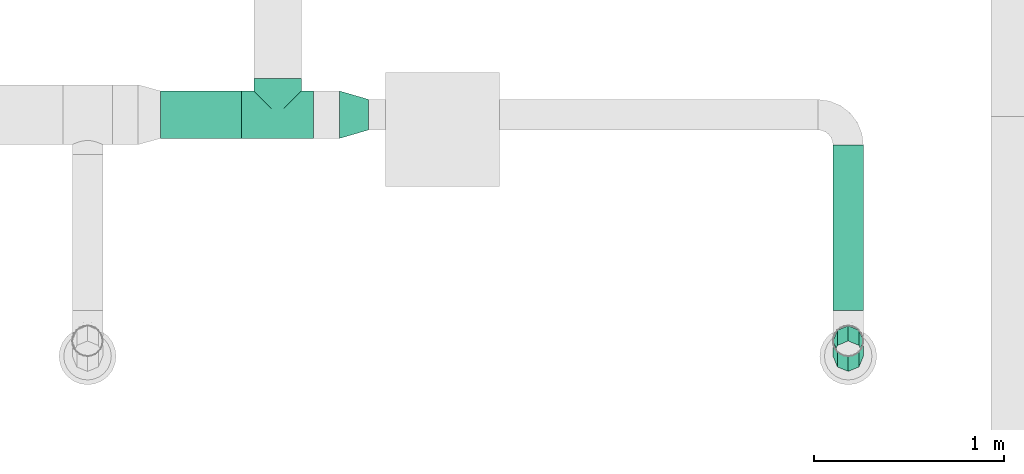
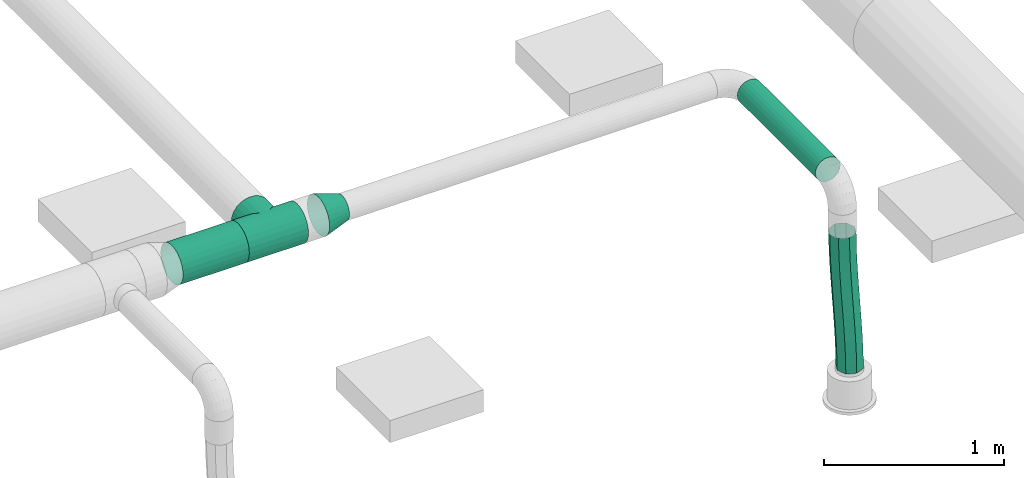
# One storey, part 324 of 374: 3 flow segments, 2 flow fittings.
"""IFC2X3 building model written with IfcOpenShell, lengths in metres."""

from ifc_helpers import new_model, si_unit, direction, origin, place, context, subcontext, project, spatial, open_shell, surface_model, source, transform, mapped, element, save


model = new_model("IFC2X3")

# Units and contexts
model_context = context("Model", 3, precision=1e-05, world=origin(), true_north=direction((-0.4480736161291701, 0.8939966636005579)))
body_context = subcontext(model_context, "Body", "Model", "MODEL_VIEW")
ifc_project = project(units=[si_unit("LENGTHUNIT", "METRE"), si_unit("AREAUNIT", "SQUARE_METRE"), si_unit("VOLUMEUNIT", "CUBIC_METRE"), si_unit("PLANEANGLEUNIT", "RADIAN"), si_unit("THERMODYNAMICTEMPERATUREUNIT", "KELVIN"), si_unit("MASSUNIT", "GRAM", prefix="KILO"), si_unit("TIMEUNIT", "SECOND")], contexts=[model_context])

# Site, building, storey
site_placement = place(None, origin())
site = spatial("IfcSite", under=ifc_project, at=site_placement, Name="Site 1", CompositionType="ELEMENT")
building_placement = place(site_placement, origin())
building = spatial("IfcBuilding", under=site, at=building_placement, Name="Undefined", CompositionType="ELEMENT")
storey_placement = place(building_placement, origin())
storey = spatial("IfcBuildingStorey", under=building, at=storey_placement, Name="Rez de chauss\x8ee", CompositionType="ELEMENT", Elevation=0.0)

# Flow segment
shared_shape_1 = source(origin(), body_context, "Body", "SurfaceModel", [
    surface_model("IfcFaceBasedSurfaceModel", [(0.0, 0.03263154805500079, 0.0), (0.0, 0.0, 0.0), (0.425483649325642, -1.776356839e-15, -4.4408921e-16), (0.425483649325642, 0.03263154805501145, -4.4408921e-16), (0.0, -0.031519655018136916, -0.008445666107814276), (0.425483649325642, -0.03151965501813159, -0.008445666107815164), (0.0, -0.05977940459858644, -0.024761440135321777), (0.425483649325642, -0.05977940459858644, -0.024761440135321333), (0.0, -0.08285339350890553, -0.047835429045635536), (0.425483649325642, -0.0828533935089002, -0.04783542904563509), (0.0, -0.09916916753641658, -0.07609517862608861), (0.425483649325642, -0.09916916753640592, -0.07609517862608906), (0.0, -0.1076148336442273, -0.10761483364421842), (0.425483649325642, -0.10761483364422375, -0.10761483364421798), (0.0, -0.1076148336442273, -0.14024638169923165), (0.425483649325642, -0.10761483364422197, -0.1402463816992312), (0.0, -0.09916916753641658, -0.17176603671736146), (0.425483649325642, -0.0991691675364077, -0.17176603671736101), (0.0, -0.08285339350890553, -0.2000257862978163), (0.425483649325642, -0.08285339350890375, -0.20002578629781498), (0.0, -0.059779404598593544, -0.22309977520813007), (0.425483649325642, -0.059779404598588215, -0.22309977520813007), (0.0, -0.03151965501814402, -0.23941554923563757), (0.425483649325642, -0.03151965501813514, -0.23941554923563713), (0.0, -1.4210854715e-14, -0.24786121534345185), (0.425483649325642, -5.329070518e-15, -0.24786121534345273), (0.0, 0.03263154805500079, -0.24786121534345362), (0.425483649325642, 0.03263154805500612, -0.24786121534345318), (0.0, 0.0641512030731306, -0.23941554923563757), (0.425483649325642, 0.06415120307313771, -0.23941554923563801), (0.0, 0.09241095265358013, -0.22309977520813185), (0.425483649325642, 0.09241095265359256, -0.22309977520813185), (0.0, 0.11548494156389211, -0.2000257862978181), (0.425483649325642, 0.11548494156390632, -0.20002578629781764), (0.0, 0.13180071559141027, -0.171766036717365), (0.425483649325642, 0.13180071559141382, -0.17176603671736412), (0.0, 0.140246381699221, -0.1402463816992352), (0.425483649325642, 0.1402463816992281, -0.1402463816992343), (0.0, 0.140246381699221, -0.10761483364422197), (0.425483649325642, 0.14024638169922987, -0.10761483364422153), (0.0, 0.13180071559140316, -0.07609517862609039), (0.425483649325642, 0.13180071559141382, -0.07609517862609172), (0.0, 0.11548494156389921, -0.04783542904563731), (0.425483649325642, 0.11548494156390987, -0.047835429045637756), (0.0, 0.09241095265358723, -0.024761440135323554), (0.425483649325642, 0.09241095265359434, -0.02476144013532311), (0.0, 0.06415120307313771, -0.008445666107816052), (0.425483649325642, 0.06415120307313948, -0.008445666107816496)], [open_shell([[[0, 1, 2, 3]], [[1, 4, 5, 2]], [[4, 6, 7, 5]], [[6, 8, 9, 7]], [[8, 10, 11, 9]], [[10, 12, 13, 11]], [[12, 14, 15, 13]], [[14, 16, 17, 15]], [[16, 18, 19, 17]], [[18, 20, 21, 19]], [[20, 22, 23, 21]], [[22, 24, 25, 23]], [[24, 26, 27, 25]], [[26, 28, 29, 27]], [[28, 30, 31, 29]], [[30, 32, 33, 31]], [[32, 34, 35, 33]], [[34, 36, 37, 35]], [[36, 38, 39, 37]], [[38, 40, 41, 39]], [[40, 42, 43, 41]], [[42, 44, 45, 43]], [[44, 46, 47, 45]], [[46, 0, 3, 47]]])]),
])
flow_segment_1_placement = place(storey_placement, origin())
element("IfcFlowSegment", 1, at=flow_segment_1_placement, inside=storey, Name="Tube", ObjectType="Tube", context=body_context, shape_type="MappedRepresentation", body=[
    mapped(shared_shape_1, transform((60.6740038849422, 8.192647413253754, 3.920740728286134), x_axis=(1.0, 0.0, 0.0), y_axis=(0.0, 0.9914448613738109, 0.1305261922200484), z_axis=(0.0, -0.1305261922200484, 0.9914448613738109))),
])

# Flow fittings
shared_shape_2 = source(origin(), body_context, "Body", "SurfaceModel", [
    surface_model("IfcFaceBasedSurfaceModel", [(0.0, 0.03263154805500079, 0.0), (0.0, 0.0, 0.0), (0.38000000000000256, 8.8817842e-16, 0.0), (0.38000000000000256, 0.03263154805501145, 0.0), (0.0, -0.031519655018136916, -0.008445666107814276), (0.38000000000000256, -0.03151965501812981, -0.008445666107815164), (0.0, -0.05977940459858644, -0.024761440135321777), (0.38000000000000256, -0.059779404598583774, -0.024761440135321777), (0.0, -0.08285339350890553, -0.047835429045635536), (0.38000000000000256, -0.08285339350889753, -0.047835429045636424), (0.0, -0.09916916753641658, -0.07609517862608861), (0.38000000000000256, -0.09916916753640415, -0.07609517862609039), (0.0, -0.1076148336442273, -0.10761483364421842), (0.38000000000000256, -0.1076148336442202, -0.1076148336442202), (0.0, -0.1076148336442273, -0.14024638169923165), (0.38000000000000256, -0.10761483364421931, -0.14024638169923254), (0.0, -0.09916916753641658, -0.17176603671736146), (0.38000000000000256, -0.09916916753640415, -0.17176603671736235), (0.0, -0.08285339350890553, -0.2000257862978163), (0.38000000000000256, -0.08285339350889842, -0.2000257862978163), (0.0, -0.059779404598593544, -0.22309977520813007), (0.38000000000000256, -0.059779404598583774, -0.22309977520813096), (0.0, -0.03151965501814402, -0.23941554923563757), (0.38000000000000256, -0.031519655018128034, -0.23941554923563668), (0.0, -1.4210854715e-14, -0.24786121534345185), (0.38000000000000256, -8.8817842e-16, -0.24786121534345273), (0.0, 0.03263154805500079, -0.24786121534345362), (0.38000000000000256, 0.03263154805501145, -0.24786121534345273), (0.0, 0.0641512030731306, -0.23941554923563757), (0.38000000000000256, 0.06415120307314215, -0.23941554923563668), (0.0, 0.09241095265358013, -0.22309977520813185), (0.38000000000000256, 0.09241095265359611, -0.22309977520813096), (0.0, 0.11548494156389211, -0.2000257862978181), (0.38000000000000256, 0.11548494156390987, -0.2000257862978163), (0.0, 0.13180071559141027, -0.171766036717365), (0.38000000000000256, 0.13180071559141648, -0.17176603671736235), (0.0, 0.140246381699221, -0.1402463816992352), (0.38000000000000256, 0.14024638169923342, -0.14024638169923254), (0.0, 0.140246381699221, -0.10761483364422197), (0.38000000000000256, 0.14024638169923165, -0.10761483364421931), (0.0, 0.13180071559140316, -0.07609517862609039), (0.38000000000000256, 0.13180071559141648, -0.07609517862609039), (0.0, 0.11548494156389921, -0.04783542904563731), (0.38000000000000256, 0.11548494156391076, -0.047835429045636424), (0.0, 0.09241095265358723, -0.024761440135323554), (0.38000000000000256, 0.09241095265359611, -0.024761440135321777), (0.0, 0.06415120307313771, -0.008445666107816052), (0.38000000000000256, 0.06415120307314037, -0.008445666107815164), (0.31500000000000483, 0.14024638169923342, -0.14024638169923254), (0.3107407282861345, 0.13180071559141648, -0.17176603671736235), (0.3107407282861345, 0.20046746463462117, -0.18080618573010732), (0.31500000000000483, 0.2046902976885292, -0.1487305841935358), (0.2982531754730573, 0.11548494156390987, -0.2000257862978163), (0.2982531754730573, 0.19653241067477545, -0.21069588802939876), (0.2783883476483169, 0.09241095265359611, -0.22309977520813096), (0.2783883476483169, 0.19315330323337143, -0.23636275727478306), (0.25250000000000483, 0.06415120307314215, -0.23941554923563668), (0.25250000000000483, 0.19056042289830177, -0.2560576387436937), (0.22235238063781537, 0.03263154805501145, -0.24786121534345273), (0.22235238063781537, 0.1889304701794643, -0.2684383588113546), (0.19000000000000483, -8.8817842e-16, -0.24786121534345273), (0.19000000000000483, 0.18837452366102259, -0.2726611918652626), (0.15764761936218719, 0.03263154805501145, -0.24786121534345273), (0.15764761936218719, 0.1889304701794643, -0.2684383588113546), (0.12750000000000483, 0.06415120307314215, -0.23941554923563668), (0.12750000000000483, 0.19056042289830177, -0.2560576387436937), (0.10161165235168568, 0.09241095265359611, -0.22309977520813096), (0.10161165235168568, 0.19315330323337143, -0.23636275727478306), (0.08174682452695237, 0.11548494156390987, -0.2000257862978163), (0.08174682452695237, 0.19653241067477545, -0.21069588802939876), (0.06925927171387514, 0.13180071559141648, -0.17176603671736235), (0.06925927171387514, 0.20046746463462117, -0.18080618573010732), (0.06499999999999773, 0.14024638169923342, -0.14024638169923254), (0.06499999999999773, 0.2046902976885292, -0.1487305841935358), (0.06925927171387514, 0.14024638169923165, -0.10761483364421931), (0.06925927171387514, 0.20891313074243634, -0.11665498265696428), (0.08174682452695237, 0.13180071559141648, -0.07609517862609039), (0.08174682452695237, 0.21284818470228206, -0.08676528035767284), (0.10161165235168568, 0.11548494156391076, -0.047835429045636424), (0.10161165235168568, 0.21622729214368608, -0.06109841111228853), (0.12750000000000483, 0.09241095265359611, -0.024761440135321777), (0.12750000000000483, 0.21882017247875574, -0.0414035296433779), (0.15764761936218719, 0.06415120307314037, -0.008445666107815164), (0.15764761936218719, 0.22045012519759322, -0.029022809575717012), (0.19000000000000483, 0.03263154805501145, 0.0), (0.19000000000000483, 0.22100607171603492, -0.024799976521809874), (0.22235238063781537, 0.06415120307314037, -0.008445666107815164), (0.22235238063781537, 0.22045012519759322, -0.029022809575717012), (0.25250000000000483, 0.09241095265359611, -0.024761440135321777), (0.25250000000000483, 0.21882017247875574, -0.0414035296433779), (0.2783883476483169, 0.11548494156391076, -0.047835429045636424), (0.2783883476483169, 0.21622729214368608, -0.06109841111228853), (0.2982531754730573, 0.13180071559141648, -0.07609517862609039), (0.2982531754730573, 0.21284818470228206, -0.08676528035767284), (0.3107407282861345, 0.14024638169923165, -0.10761483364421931), (0.3107407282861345, 0.20891313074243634, -0.11665498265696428)], [open_shell([[[0, 1, 2, 3]], [[1, 4, 5, 2]], [[4, 6, 7, 5]], [[6, 8, 9, 7]], [[8, 10, 11, 9]], [[10, 12, 13, 11]], [[12, 14, 15, 13]], [[14, 16, 17, 15]], [[16, 18, 19, 17]], [[18, 20, 21, 19]], [[20, 22, 23, 21]], [[22, 24, 25, 23]], [[24, 26, 27, 25]], [[26, 28, 29, 27]], [[28, 30, 31, 29]], [[30, 32, 33, 31]], [[32, 34, 35, 33]], [[34, 36, 37, 35]], [[36, 38, 39, 37]], [[38, 40, 41, 39]], [[40, 42, 43, 41]], [[42, 44, 45, 43]], [[44, 46, 47, 45]], [[46, 0, 3, 47]], [[48, 49, 50, 51]], [[49, 52, 53, 50]], [[52, 54, 55, 53]], [[54, 56, 57, 55]], [[56, 58, 59, 57]], [[58, 60, 61, 59]], [[60, 62, 63, 61]], [[62, 64, 65, 63]], [[64, 66, 67, 65]], [[66, 68, 69, 67]], [[68, 70, 71, 69]], [[70, 72, 73, 71]], [[72, 74, 75, 73]], [[74, 76, 77, 75]], [[76, 78, 79, 77]], [[78, 80, 81, 79]], [[80, 82, 83, 81]], [[82, 84, 85, 83]], [[84, 86, 87, 85]], [[86, 88, 89, 87]], [[88, 90, 91, 89]], [[90, 92, 93, 91]], [[92, 94, 95, 93]], [[94, 48, 51, 95]]])]),
])
flow_fitting_1_placement = place(storey_placement, origin())
element("IfcFlowFitting", 2, at=flow_fitting_1_placement, inside=storey, Name="Pièce en té 90°", ObjectType="Pièce en té 90°", context=body_context, shape_type="MappedRepresentation", body=[
    mapped(shared_shape_2, transform((61.47948753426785, 8.192647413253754, 3.679259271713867), x_axis=(-1.0, 0.0, 0.0), y_axis=(0.0, 0.9914448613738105, -0.13052619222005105), z_axis=(9.56658874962e-13, -0.13052619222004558, -0.9914448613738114))),
])
shared_shape_3 = source(origin(), body_context, "Body", "SurfaceModel", [
    surface_model("IfcFaceBasedSurfaceModel", [(0.1604400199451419, 2.22044605e-16, 1.776356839e-15), (0.1592453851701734, 0.032609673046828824, -1.776356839e-15), (-0.0007645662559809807, 0.020870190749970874, 1.776356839e-15), (0.0, 0.0, 0.0), (0.15574289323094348, 0.06402216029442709, -0.008112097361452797), (-0.003006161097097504, 0.04097418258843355, -0.005191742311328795), (0.1501712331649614, 0.0920967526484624, -0.023783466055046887), (-0.006572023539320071, 0.05894192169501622, -0.01522141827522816), (0.14291010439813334, 0.11492021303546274, -0.0459461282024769), (-0.011219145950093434, 0.07354893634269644, -0.0294055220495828), (0.13445434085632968, 0.1309371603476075, -0.07308973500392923), (-0.01663083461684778, 0.08379978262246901, -0.046777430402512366), (0.12538018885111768, 0.13905606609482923, -0.10336449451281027), (-0.022438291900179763, 0.08899588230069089, -0.06615327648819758), (0.11630603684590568, 0.13872364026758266, -0.13470723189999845), (-0.028245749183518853, 0.08878312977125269, -0.0862126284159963), (0.10785027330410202, 0.12996253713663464, -0.16498199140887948), (-0.0336574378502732, 0.0831760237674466, -0.10558847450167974), (0.10058914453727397, 0.11336981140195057, -0.19212559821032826), (-0.038304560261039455, 0.0725566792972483, -0.12296038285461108), (0.09501748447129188, 0.09007622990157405, -0.21428826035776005), (-0.04187042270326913, 0.057648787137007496, -0.13714448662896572), (0.09151499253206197, 0.06166921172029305, -0.22995962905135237), (-0.044112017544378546, 0.039468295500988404, -0.14717416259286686), (0.09032035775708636, 0.030084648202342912, -0.23807172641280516), (-0.044876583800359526, 0.019254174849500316, -0.15236590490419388), (0.09151499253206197, -0.0025250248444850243, -0.23807172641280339), (-0.044112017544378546, -0.0016160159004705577, -0.15236590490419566), (0.09501748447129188, -0.03393751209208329, -0.22995962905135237), (-0.04187042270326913, -0.021720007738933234, -0.1471741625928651), (0.10058914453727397, -0.0620121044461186, -0.21428826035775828), (-0.038304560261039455, -0.0396877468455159, -0.13714448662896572), (0.10785027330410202, -0.08483556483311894, -0.19212559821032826), (-0.0336574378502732, -0.05429476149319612, -0.12296038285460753), (0.11630603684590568, -0.10085251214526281, -0.16498199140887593), (-0.028245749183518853, -0.0645456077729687, -0.10558847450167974), (0.12538018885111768, -0.10897141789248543, -0.1347072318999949), (-0.022438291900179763, -0.06974170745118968, -0.0862126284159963), (0.13445434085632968, -0.10863899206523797, -0.10336449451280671), (-0.01663083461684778, -0.06952895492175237, -0.0661532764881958), (0.14291010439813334, -0.09987788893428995, -0.07308973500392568), (-0.011219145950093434, -0.06392184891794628, -0.04677743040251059), (0.1501712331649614, -0.08328516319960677, -0.0459461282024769), (-0.006572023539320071, -0.05330250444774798, -0.0294055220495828), (0.15574289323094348, -0.059991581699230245, -0.02378346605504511), (-0.003006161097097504, -0.03839461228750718, -0.01522141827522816), (0.1592453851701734, -0.03158456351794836, -0.008112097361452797), (-0.0007645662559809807, -0.0202141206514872, -0.005191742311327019)], [open_shell([[[0, 1, 2, 3]], [[1, 4, 5, 2]], [[4, 6, 7, 5]], [[6, 8, 9, 7]], [[8, 10, 11, 9]], [[10, 12, 13, 11]], [[12, 14, 15, 13]], [[14, 16, 17, 15]], [[16, 18, 19, 17]], [[18, 20, 21, 19]], [[20, 22, 23, 21]], [[22, 24, 25, 23]], [[24, 26, 27, 25]], [[26, 28, 29, 27]], [[28, 30, 31, 29]], [[30, 32, 33, 31]], [[32, 34, 35, 33]], [[34, 36, 37, 35]], [[36, 38, 39, 37]], [[38, 40, 41, 39]], [[40, 42, 43, 41]], [[42, 44, 45, 43]], [[44, 46, 47, 45]], [[46, 0, 3, 47]]])]),
])
flow_fitting_2_placement = place(storey_placement, origin())
element("IfcFlowFitting", 3, at=flow_fitting_2_placement, inside=storey, Name="Réduction conique", ObjectType="Réduction conique", context=body_context, shape_type="MappedRepresentation", body=[
    mapped(shared_shape_3, transform((61.76848753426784, 8.144999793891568, 3.8000000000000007), x_axis=(-0.9598602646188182, -0.28047864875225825, 0.0), y_axis=(-0.03516387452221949, 0.1203385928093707, -0.9921099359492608), z_axis=(0.2782656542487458, -0.9522869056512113, -0.12537094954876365))),
])

# Flow segments
shared_shape_4 = source(origin(), body_context, "Body", "SurfaceModel", [
    surface_model("IfcFaceBasedSurfaceModel", [(0.0, 0.020884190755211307, 0.0), (0.0, 0.0, 0.0), (0.870001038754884, 0.0, -8.8817842e-16), (0.870001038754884, 0.020884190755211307, -8.8817842e-16), (0.0, -0.020172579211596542, -0.005405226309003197), (0.870001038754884, -0.020172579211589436, -0.005405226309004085), (0.0, -0.03825881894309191, -0.015847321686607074), (0.870001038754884, -0.03825881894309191, -0.015847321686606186), (0.0, -0.05302617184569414, -0.0306146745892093), (0.870001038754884, -0.05302617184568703, -0.030614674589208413), (0.0, -0.06346826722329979, -0.04870091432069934), (0.870001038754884, -0.06346826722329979, -0.04870091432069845), (0.0, -0.06887349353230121, -0.06887349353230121), (0.870001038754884, -0.0688734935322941, -0.0688734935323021), (0.0, -0.06887349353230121, -0.08975768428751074), (0.870001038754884, -0.0688734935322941, -0.08975768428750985), (0.0, -0.06346826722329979, -0.10993026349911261), (0.870001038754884, -0.06346826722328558, -0.1099302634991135), (0.0, -0.05302617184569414, -0.12801650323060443), (0.870001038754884, -0.05302617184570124, -0.12801650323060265), (0.0, -0.038258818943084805, -0.14278385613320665), (0.870001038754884, -0.0382588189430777, -0.14278385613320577), (0.0, -0.020172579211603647, -0.15322595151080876), (0.870001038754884, -0.020172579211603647, -0.15322595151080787), (0.0, 7.105427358e-15, -0.15863117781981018), (0.870001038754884, 1.4210854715e-14, -0.15863117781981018), (0.0, 0.020884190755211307, -0.15863117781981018), (0.870001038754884, 0.020884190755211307, -0.1586311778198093), (0.0, 0.04105676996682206, -0.15322595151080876), (0.870001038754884, 0.041056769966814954, -0.15322595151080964), (0.0, 0.05914300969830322, -0.1427838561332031), (0.870001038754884, 0.05914300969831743, -0.14278385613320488), (0.0, 0.07391036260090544, -0.12801650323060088), (0.870001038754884, 0.07391036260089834, -0.12801650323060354), (0.0, 0.0843524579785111, -0.10993026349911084), (0.870001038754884, 0.0843524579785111, -0.1099302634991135), (0.0, 0.08975768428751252, -0.08975768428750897), (0.870001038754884, 0.08975768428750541, -0.08975768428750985), (0.0, 0.08975768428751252, -0.06887349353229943), (0.870001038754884, 0.08975768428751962, -0.0688734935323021), (0.0, 0.0843524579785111, -0.048700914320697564), (0.870001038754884, 0.0843524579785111, -0.04870091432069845), (0.0, 0.07391036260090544, -0.030614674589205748), (0.870001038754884, 0.07391036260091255, -0.030614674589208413), (0.0, 0.05914300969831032, -0.015847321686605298), (0.870001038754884, 0.05914300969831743, -0.015847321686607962), (0.0, 0.04105676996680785, -0.005405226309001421), (0.870001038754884, 0.041056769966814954, -0.005405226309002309)], [open_shell([[[0, 1, 2, 3]], [[1, 4, 5, 2]], [[4, 6, 7, 5]], [[6, 8, 9, 7]], [[8, 10, 11, 9]], [[10, 12, 13, 11]], [[12, 14, 15, 13]], [[14, 16, 17, 15]], [[16, 18, 19, 17]], [[18, 20, 21, 19]], [[20, 22, 23, 21]], [[22, 24, 25, 23]], [[24, 26, 27, 25]], [[26, 28, 29, 27]], [[28, 30, 31, 29]], [[30, 32, 33, 31]], [[32, 34, 35, 33]], [[34, 36, 37, 35]], [[36, 38, 39, 37]], [[38, 40, 41, 39]], [[40, 42, 43, 41]], [[42, 44, 45, 43]], [[44, 46, 47, 45]], [[46, 0, 3, 47]]])]),
])
flow_segment_2_placement = place(storey_placement, origin())
element("IfcFlowSegment", 4, at=flow_segment_2_placement, inside=storey, Name="Tube", ObjectType="Tube", context=body_context, shape_type="MappedRepresentation", body=[
    mapped(shared_shape_4, transform((64.2693045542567, 8.064999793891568, 3.877274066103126), x_axis=(0.0, -1.0, 0.0), y_axis=(0.9914448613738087, 0.0, 0.13052619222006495), z_axis=(-0.13052619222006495, 0.0, 0.9914448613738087))),
])
shared_shape_5 = source(origin(), body_context, "Body", "SurfaceModel", [
    surface_model("IfcFaceBasedSurfaceModel", [(0.09591138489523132, -3.552713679e-15, 7.105427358e-15), (0.057778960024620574, 0.047905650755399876, 7.105427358e-15), (0.0, 0.0, 0.0), (0.039908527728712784, -0.046436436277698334, -1.0803133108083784e-06), (-0.05576709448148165, -0.049661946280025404, -0.0010921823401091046), (-0.014403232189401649, -0.09480686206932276, -0.0010661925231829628), (-0.1098270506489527, -0.10061373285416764, -0.0030471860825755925), (-0.06736211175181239, -0.144724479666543, -0.002982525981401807), (-0.16253987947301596, -0.1524448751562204, -0.005638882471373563), (-0.11930632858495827, -0.19580249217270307, -0.005537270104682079), (-0.2142613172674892, -0.20475370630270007, -0.00864508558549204), (-0.17057410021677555, -0.24765410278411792, -0.00851761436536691), (-0.2653408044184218, -0.25714537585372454, -0.011847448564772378), (-0.22150364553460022, -0.299892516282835, -0.011710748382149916), (-0.316120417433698, -0.309230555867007, -0.015031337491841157), (-0.27243319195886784, -0.3521309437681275, -0.01490386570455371), (-0.3669345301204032, -0.36062498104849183, -0.01798578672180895), (-0.323700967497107, -0.4039825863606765, -0.017884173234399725), (-0.4181101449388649, -0.4109499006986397, -0.020503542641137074), (-0.3756451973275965, -0.45506063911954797, -0.020438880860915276), (-0.4699679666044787, -0.4598333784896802, -0.022381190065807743), (-0.42860410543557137, -0.5049782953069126, -0.022355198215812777), (-0.5228244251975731, -0.506912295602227, -0.023419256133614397), (-0.4829159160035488, -0.5533487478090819, -0.023420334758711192), (-0.5770512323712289, -0.551879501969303, -0.02342149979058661), (-0.5389188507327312, -0.5997851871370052, -0.02342149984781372), (0.030535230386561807, 0.08155715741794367, -0.043294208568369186), (-0.027979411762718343, 0.033042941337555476, -0.043293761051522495), (-0.08434932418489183, -0.017153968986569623, -0.04439715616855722), (-0.1388653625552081, -0.06853412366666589, -0.04636817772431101), (-0.1918965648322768, -0.12067722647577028, -0.048975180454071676), (-0.24380592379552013, -0.17317545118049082, -0.051992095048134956), (-0.2949475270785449, -0.22563060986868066, -0.05519828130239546), (-0.34566504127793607, -0.27765231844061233, -0.0583783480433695), (-0.3962912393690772, -0.3288573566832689, -0.06132208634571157), (-0.447148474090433, -0.3788703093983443, -0.06382453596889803), (-0.4985501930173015, -0.427325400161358, -0.0656861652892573), (-0.5508037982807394, -0.4738693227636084, -0.0667130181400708), (-0.6042948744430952, -0.5182279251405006, -0.0667157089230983), (0.030139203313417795, 0.0812419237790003, -0.10452146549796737), (-0.027639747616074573, 0.03333628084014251, -0.10452146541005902), (-0.08340683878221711, -0.016325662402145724, -0.10561364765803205), (-0.13746679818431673, -0.067277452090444, -0.10756865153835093), (-0.190179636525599, -0.11910860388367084, -0.11016034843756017), (-0.2419010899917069, -0.1714174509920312, -0.11316655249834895), (-0.29298059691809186, -0.22380914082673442, -0.11636891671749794), (-0.34376022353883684, -0.27589433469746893, -0.11955280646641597), (-0.3945743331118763, -0.32728875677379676, -0.12250725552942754), (-0.4457499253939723, -0.37761365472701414, -0.125025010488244), (-0.4976077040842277, -0.42649709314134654, -0.12690265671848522), (-0.5504640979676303, -0.4735759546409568, -0.12794072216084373), (-0.6046908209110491, -0.5185430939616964, -0.12794296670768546), (0.05682286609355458, 0.04714460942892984, -0.14781567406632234), (0.0008200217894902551, 0.0007081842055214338, -0.1478167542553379), (-0.053491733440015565, -0.04766223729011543, -0.14888186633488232), (-0.10645061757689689, -0.097579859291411, -0.1507981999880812), (-0.15839484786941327, -0.1486578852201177, -0.1533529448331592), (-0.2096626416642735, -0.20050951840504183, -0.15633329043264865), (-0.2605922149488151, -0.2527479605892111, -0.15952642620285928), (-0.31152178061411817, -0.30498640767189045, -0.16271954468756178), (-0.36278955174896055, -0.3568380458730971, -0.16569985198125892), (-0.4147337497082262, -0.4079160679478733, -0.1682545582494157), (-0.4676925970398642, -0.4578336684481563, -0.17017087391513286), (-0.5220043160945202, -0.5062040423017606, -0.17123600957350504), (-0.5780071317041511, -0.552640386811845, -0.17123717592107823), (0.09495529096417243, -0.0007610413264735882, -0.14781567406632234), (0.04072854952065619, -0.04572825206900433, -0.14781783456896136), (-0.012127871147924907, -0.09280715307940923, -0.14885587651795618), (-0.06398567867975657, -0.14169060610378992, -0.1507335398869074), (-0.11516129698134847, -0.19201550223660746, -0.1532513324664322), (-0.16597542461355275, -0.24340991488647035, -0.1562058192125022), (-0.21675505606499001, -0.29549510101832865, -0.1593897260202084), (-0.2678345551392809, -0.3478867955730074, -0.16259207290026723), (-0.31955598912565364, -0.4001956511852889, -0.16559823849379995), (-0.37226880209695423, -0.45202680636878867, -0.16818989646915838), (-0.4263287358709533, -0.5029785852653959, -0.17014488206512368), (-0.4820958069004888, -0.5526404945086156, -0.17123708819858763), (-0.5398747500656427, -0.6005460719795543, -0.1712371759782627), (0.1221990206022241, -0.034412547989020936, -0.10452146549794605), (0.06870796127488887, -0.07877119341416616, -0.1045240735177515), (0.016454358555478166, -0.12531513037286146, -0.10555090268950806), (-0.034947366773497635, -0.1737702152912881, -0.10741254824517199), (-0.08580461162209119, -0.22378315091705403, -0.10991503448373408), (-0.13643081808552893, -0.27498817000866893, -0.1128588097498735), (-0.18714833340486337, -0.32700986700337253, -0.11603889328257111), (-0.23828993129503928, -0.37946503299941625, -0.11924506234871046), (-0.2901992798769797, -0.4319632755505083, -0.12226193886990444), (-0.3432304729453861, -0.4841063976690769, -0.12486890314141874), (-0.3977465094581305, -0.535486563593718, -0.12683990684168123), (-0.4541164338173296, -0.5856834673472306, -0.12794332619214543), (-0.5126311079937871, -0.6341976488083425, -0.12794296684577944), (0.12259504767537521, -0.03409731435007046, -0.04329420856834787), (0.06836829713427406, -0.07906453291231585, -0.0432963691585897), (0.015511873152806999, -0.12614343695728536, -0.04433441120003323), (-0.036345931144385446, -0.1750268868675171, -0.046212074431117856), (-0.08752153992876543, -0.22535177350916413, -0.04872986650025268), (-0.13833565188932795, -0.27674617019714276, -0.05168435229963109), (-0.18911526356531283, -0.3288313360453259, -0.05486825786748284), (-0.2401947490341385, -0.38122301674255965, -0.0580706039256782), (-0.2919161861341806, -0.4335318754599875, -0.06107676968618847), (-0.3446290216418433, -0.48536305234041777, -0.06366842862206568), (-0.3986889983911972, -0.5363148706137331, -0.0656234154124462), (-0.4544561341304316, -0.5859768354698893, -0.0667156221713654), (-0.5122351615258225, -0.6338824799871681, -0.06671570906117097)], [open_shell([[[0, 1, 2]], [[2, 3, 0]], [[3, 2, 4]], [[4, 5, 3]], [[5, 4, 6]], [[6, 7, 5]], [[7, 6, 8]], [[8, 9, 7]], [[9, 8, 10]], [[10, 11, 9]], [[11, 10, 12]], [[12, 13, 11]], [[13, 12, 14]], [[14, 15, 13]], [[15, 14, 16]], [[16, 17, 15]], [[17, 16, 18]], [[18, 19, 17]], [[19, 18, 20]], [[20, 21, 19]], [[21, 20, 22]], [[22, 23, 21]], [[23, 22, 24]], [[24, 25, 23]], [[1, 26, 27]], [[27, 2, 1]], [[2, 27, 28]], [[28, 4, 2]], [[4, 28, 29]], [[29, 6, 4]], [[6, 29, 30]], [[30, 8, 6]], [[8, 30, 31]], [[31, 10, 8]], [[10, 31, 32]], [[32, 12, 10]], [[12, 32, 33]], [[33, 14, 12]], [[14, 33, 34]], [[34, 16, 14]], [[16, 34, 35]], [[35, 18, 16]], [[18, 35, 36]], [[36, 20, 18]], [[20, 36, 37]], [[37, 22, 20]], [[22, 37, 38]], [[38, 24, 22]], [[26, 39, 40]], [[40, 27, 26]], [[27, 40, 41]], [[41, 28, 27]], [[28, 41, 42]], [[42, 29, 28]], [[29, 42, 43]], [[43, 30, 29]], [[30, 43, 44]], [[44, 31, 30]], [[31, 44, 45]], [[45, 32, 31]], [[32, 45, 46]], [[46, 33, 32]], [[33, 46, 47]], [[47, 34, 33]], [[34, 47, 48]], [[48, 35, 34]], [[35, 48, 49]], [[49, 36, 35]], [[36, 49, 50]], [[50, 37, 36]], [[37, 50, 51]], [[51, 38, 37]], [[39, 52, 53]], [[53, 40, 39]], [[40, 53, 54]], [[54, 41, 40]], [[41, 54, 55]], [[55, 42, 41]], [[42, 55, 56]], [[56, 43, 42]], [[43, 56, 57]], [[57, 44, 43]], [[44, 57, 58]], [[58, 45, 44]], [[45, 58, 59]], [[59, 46, 45]], [[46, 59, 60]], [[60, 47, 46]], [[47, 60, 61]], [[61, 48, 47]], [[48, 61, 62]], [[62, 49, 48]], [[49, 62, 63]], [[63, 50, 49]], [[50, 63, 64]], [[64, 51, 50]], [[52, 65, 66]], [[66, 53, 52]], [[53, 66, 67]], [[67, 54, 53]], [[54, 67, 68]], [[68, 55, 54]], [[55, 68, 69]], [[69, 56, 55]], [[56, 69, 70]], [[70, 57, 56]], [[57, 70, 71]], [[71, 58, 57]], [[58, 71, 72]], [[72, 59, 58]], [[59, 72, 73]], [[73, 60, 59]], [[60, 73, 74]], [[74, 61, 60]], [[61, 74, 75]], [[75, 62, 61]], [[62, 75, 76]], [[76, 63, 62]], [[63, 76, 77]], [[77, 64, 63]], [[65, 78, 79]], [[79, 66, 65]], [[66, 79, 80]], [[80, 67, 66]], [[67, 80, 81]], [[81, 68, 67]], [[68, 81, 82]], [[82, 69, 68]], [[69, 82, 83]], [[83, 70, 69]], [[70, 83, 84]], [[84, 71, 70]], [[71, 84, 85]], [[85, 72, 71]], [[72, 85, 86]], [[86, 73, 72]], [[73, 86, 87]], [[87, 74, 73]], [[74, 87, 88]], [[88, 75, 74]], [[75, 88, 89]], [[89, 76, 75]], [[76, 89, 90]], [[90, 77, 76]], [[78, 91, 92]], [[92, 79, 78]], [[79, 92, 93]], [[93, 80, 79]], [[80, 93, 94]], [[94, 81, 80]], [[81, 94, 95]], [[95, 82, 81]], [[82, 95, 96]], [[96, 83, 82]], [[83, 96, 97]], [[97, 84, 83]], [[84, 97, 98]], [[98, 85, 84]], [[85, 98, 99]], [[99, 86, 85]], [[86, 99, 100]], [[100, 87, 86]], [[87, 100, 101]], [[101, 88, 87]], [[88, 101, 102]], [[102, 89, 88]], [[89, 102, 103]], [[103, 90, 89]], [[91, 0, 3]], [[3, 92, 91]], [[92, 3, 5]], [[5, 93, 92]], [[93, 5, 7]], [[7, 94, 93]], [[94, 7, 9]], [[9, 95, 94]], [[95, 9, 11]], [[11, 96, 95]], [[96, 11, 13]], [[13, 97, 96]], [[97, 13, 15]], [[15, 98, 97]], [[98, 15, 17]], [[17, 99, 98]], [[99, 17, 19]], [[19, 100, 99]], [[100, 19, 21]], [[21, 101, 100]], [[101, 21, 23]], [[23, 102, 101]], [[102, 23, 25]], [[25, 103, 102]]])]),
])
flow_segment_3_placement = place(storey_placement, origin())
element("IfcFlowSegment", 5, at=flow_segment_3_placement, inside=storey, Name="Tube flexible", ObjectType="Tube flexible", context=body_context, shape_type="MappedRepresentation", body=[
    mapped(shared_shape_5, transform((64.23344154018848, 7.089946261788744, 3.4049617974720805), x_axis=(-0.2443032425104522, -0.5728986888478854, 0.7823701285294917), y_axis=(0.294653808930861, 0.7248106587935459, 0.6227588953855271), z_axis=(-0.9238479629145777, 0.38267035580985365, -0.008266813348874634))),
])

save(model, "model.ifc")
